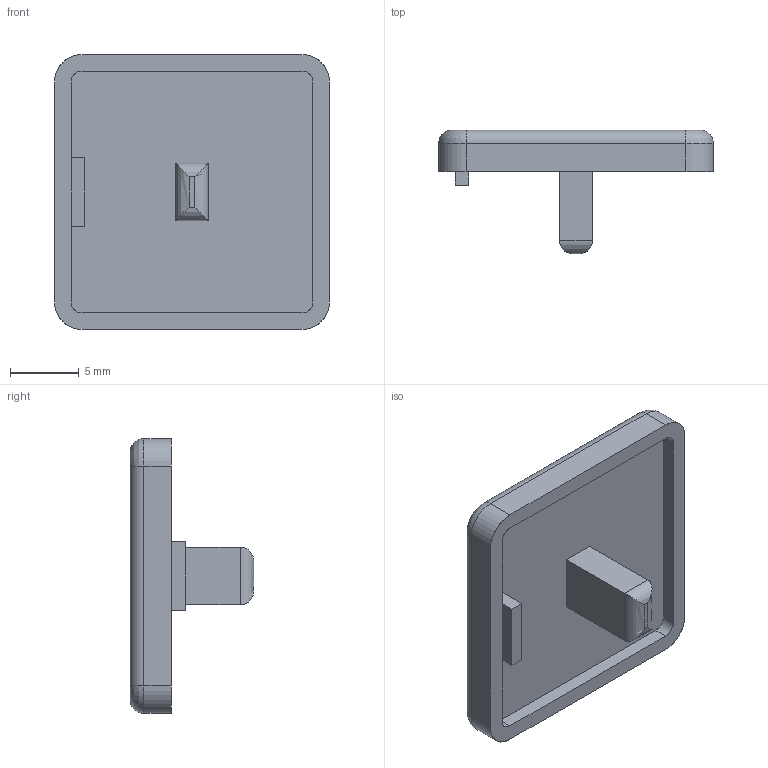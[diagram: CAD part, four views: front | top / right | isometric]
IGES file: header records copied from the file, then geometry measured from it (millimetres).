
Start section: SolidWorks IGES file using analytic representation for surfaces
Global section: file name: C:\Users\admin\Desktop\IGES\J2C2.igs; native system: SolidWorks 2014; preprocessor: SolidWorks 2014; author: admin_pc; date: 170524.165200; units: millimetre
Bounding box: 20 x 9 x 20 mm (x, y, z)
Surface area: 1158.7 mm2 (no closed solid volume)
Topology: 0 solids, 0 shells, 42 faces, 312 edges, 312 vertices
Faces by surface type: bspline 26, revolution 16
